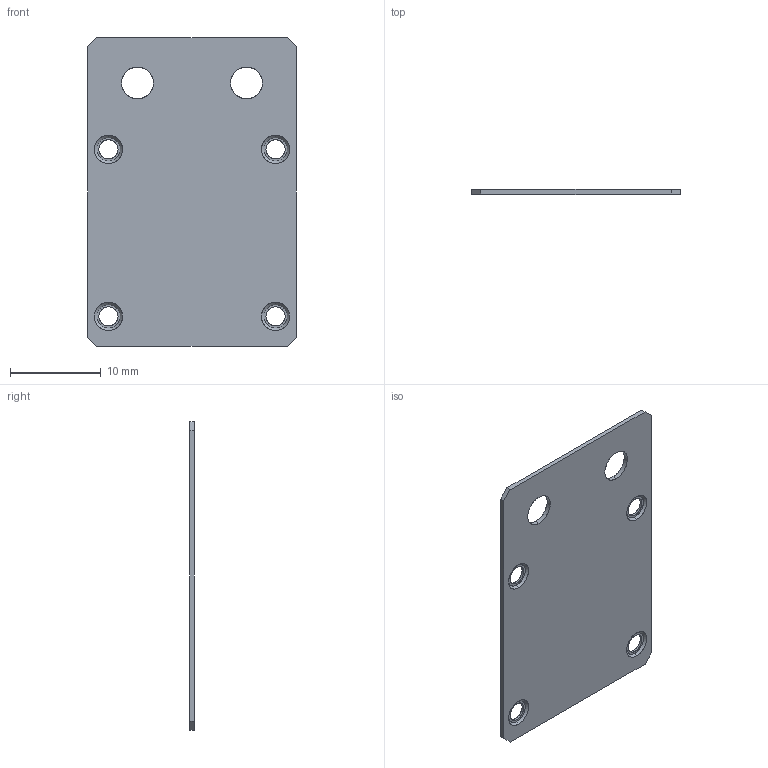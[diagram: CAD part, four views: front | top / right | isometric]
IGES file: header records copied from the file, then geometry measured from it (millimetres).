
Start section: SolidWorks IGES file using analytic representation for surfaces
Bounding box: 23 x 0.5 x 34 mm (x, y, z)
Surface area: 1570.9 mm2 (no closed solid volume)
Topology: 0 solids, 0 shells, 34 faces, 768 edges, 768 vertices
Faces by surface type: revolution 20, bspline 14
